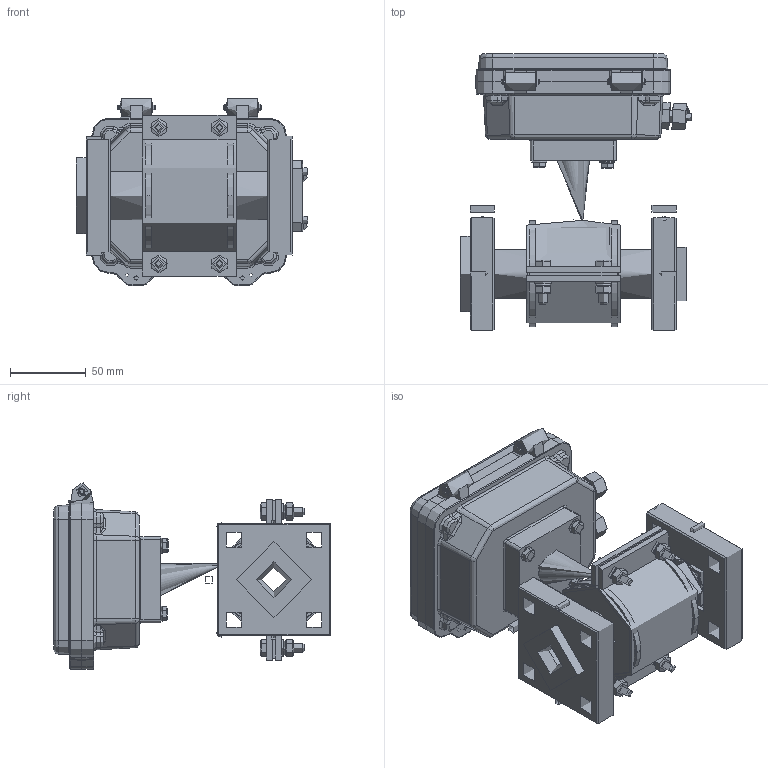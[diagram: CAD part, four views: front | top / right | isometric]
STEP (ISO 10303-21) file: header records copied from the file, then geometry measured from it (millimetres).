
FILE_DESCRIPTION(('STEP AP214'), '1');
FILE_NAME('Âçëåò ÝÐ ÏÐÎÔÈ DN20 Ôëàíåö', '', ('UNSPECIFIED'), ('UNSPECIFIED'), 'ASCON STEP Converter 1.6', 'ASCON Math Kernel', '');
FILE_SCHEMA(('AUTOMOTIVE_DESIGN { 1 0 10303 214 3 1 1}'));
Length unit declared in the file: millimetre
Products named in the file (1): 婽挭.407212.031-04
Bounding box: 152.67 x 182.45 x 123.45 mm (x, y, z)
Topology: 5 solids, 10 shells, 1277 faces, 3108 edges, 1884 vertices
Faces by surface type: plane 531, cylinder 398, cone 169, torus 141, bspline 38
Full cylindrical faces by diameter (mm): 2 x2, 3 x4, 3.242 x14, 3.3 x2, 3.7 x4, 4 x12, 4.134 x2, 5 x1, 5.5 x1, 6 x12, 6.3 x2, 6.4 x4, 7 x12, 7.5 x2, 8 x2, 10 x4, 11 x4, 12 x8, 12.5 x2, 14 x8, 16 x1, 16.5 x2, 18 x1, 19 x1, 20 x1, 21 x1, 25 x1, 30 x1, 31 x2, 32 x1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
Entity records: 66555 total; most frequent: CARTESIAN_POINT 22179, DIRECTION 6261, ORIENTED_EDGE 5582, EDGE_CURVE 2791, AXIS2_PLACEMENT_3D 2482, VERTEX_POINT 1854, EDGE_LOOP 1713, FACE_BOUND 1314
